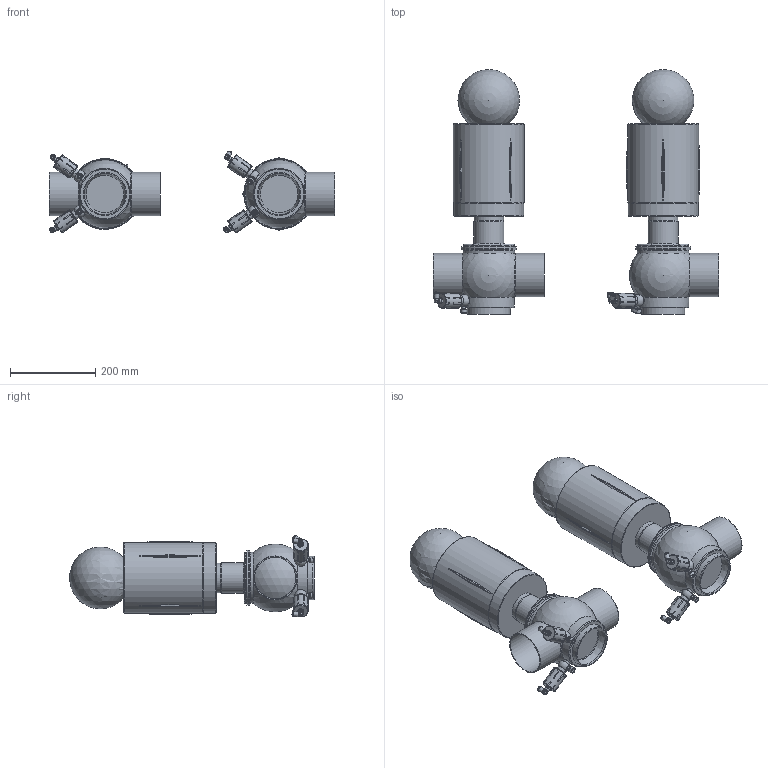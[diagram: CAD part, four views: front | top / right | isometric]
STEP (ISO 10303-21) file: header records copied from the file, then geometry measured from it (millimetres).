
FILE_DESCRIPTION(/* description */ (''),/* implementation_level */ '2;1');
FILE_NAME(/* name */ 'C:\Users\marz-m\Downloads\BZZAW3 3D STEP\BZAW3-DN101.6x2.11-SAL.stp',/* time_stamp */ '2018-09-26T16:13:00+02:00',/* author */ ('marz-m'),/* organization */ (''),/* preprocessor_version */ 'ST-DEVELOPER v17',/* originating_system */ 'Autodesk Inventor 2018',/* authorisation */ '');
FILE_SCHEMA (('AUTOMOTIVE_DESIGN { 1 0 10303 214 3 1 1 }'));
Length unit declared in the file: millimetre
Products named in the file (7): BZAW3-DN101.6x2.11-SAL; CIL156; Assemblaggio-DN0100; TRH5C0400BBA; TRH6C0400BBA; Valvolina 3A; 3DCMP000281
Assembly tree (12 placements, depth 2):
  BZAW3-DN101.6x2.11-SAL
    CIL156  x2
    Assemblaggio-DN0100  x2
    TRH5C0400BBA
    TRH6C0400BBA
    Valvolina 3A  x4
    3DCMP000281  x2
Bounding box: 668.8 x 573.97 x 192.15 mm (x, y, z)
Volume: 17713362.5 mm3; surface area: 925755.9 mm2
Topology: 12 solids, 12 shells, 650 faces, 1861 edges, 1311 vertices
Faces by surface type: plane 279, cylinder 196, cone 91, bspline 52, torus 21, sphere 11
Full cylindrical faces by diameter (mm): 2 x8, 6 x16, 7 x4, 8 x4, 8.1 x4, 10 x4, 11 x4, 11.5 x4, 12.918 x4, 13.157 x4, 14 x4, 15.9 x4, 16 x4, 20 x4, 22 x4, 35 x4, 69 x2, 71 x2, 88 x1, 97.38 x5, 101.6 x5, 120 x2, 121 x4, 129 x4, 164.5 x2, 166 x2
Entity records: 10549 total; most frequent: CARTESIAN_POINT 3886, DIRECTION 1340, ORIENTED_EDGE 1320, EDGE_CURVE 660, AXIS2_PLACEMENT_3D 567, VERTEX_POINT 476, CIRCLE 317, EDGE_LOOP 278
